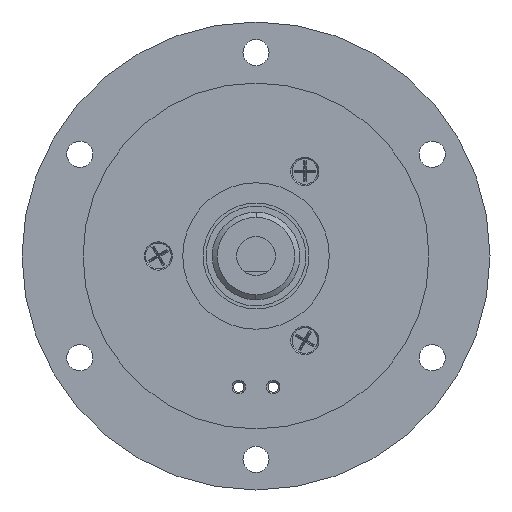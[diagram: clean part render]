
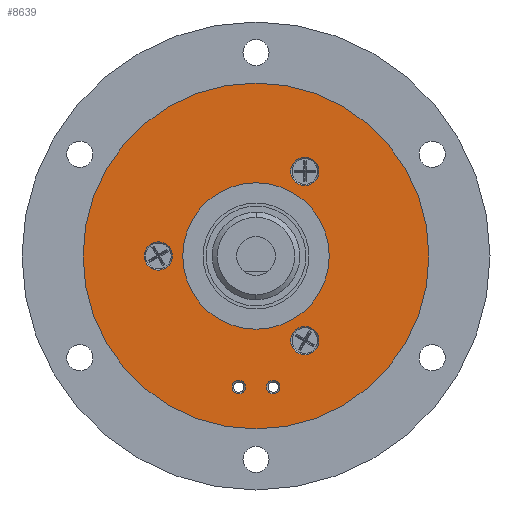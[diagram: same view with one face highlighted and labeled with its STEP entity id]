
A CAD part, left-side view. The second image highlights one B-rep face of the part: STEP entity #8639.
In plain terms, the highlighted planar face has unit normal (-1, 0, 0).
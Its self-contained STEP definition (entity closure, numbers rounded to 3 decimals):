
#18 = CARTESIAN_POINT ( 'NONE',  ( -3.572, 11.688, 17.78 ) ) ;
#200 = DIRECTION ( 'NONE',  ( 0., 0.5, 0.866 ) ) ;
#406 = CIRCLE ( 'NONE', #5492, 42.5 ) ;
#615 = CIRCLE ( 'NONE', #10276, 3.47 ) ;
#723 = ORIENTED_EDGE ( 'NONE', *, *, #1535, .F. ) ;
#833 = CARTESIAN_POINT ( 'NONE',  ( -3.572, 47.688, -3.005 ) ) ;
#926 = FACE_BOUND ( 'NONE', #2237, .T. ) ;
#1167 = VERTEX_POINT ( 'NONE', #6476 ) ;
#1206 = CIRCLE ( 'NONE', #9197, 3.47 ) ;
#1235 = CARTESIAN_POINT ( 'NONE',  ( -3.572, 4.173, -36.806 ) ) ;
#1272 = EDGE_LOOP ( 'NONE', ( #14565, #5765 ) ) ;
#1300 = VERTEX_POINT ( 'NONE', #13605 ) ;
#1302 = DIRECTION ( 'NONE',  ( 0., 0.5, 0.866 ) ) ;
#1342 = ORIENTED_EDGE ( 'NONE', *, *, #5730, .F. ) ;
#1366 = ORIENTED_EDGE ( 'NONE', *, *, #5822, .T. ) ;
#1535 = EDGE_CURVE ( 'NONE', #4799, #11202, #14807, .T. ) ;
#1538 = CARTESIAN_POINT ( 'NONE',  ( -3.572, 13.423, 20.785 ) ) ;
#1599 = CARTESIAN_POINT ( 'NONE',  ( -3.572, 13.423, -20.785 ) ) ;
#1624 = AXIS2_PLACEMENT_3D ( 'NONE', #14924, #10942, #4559 ) ;
#1668 = VERTEX_POINT ( 'NONE', #833 ) ;
#1907 = EDGE_LOOP ( 'NONE', ( #3865, #12963 ) ) ;
#2050 = DIRECTION ( 'NONE',  ( 0., 0.5, 0.866 ) ) ;
#2144 = CARTESIAN_POINT ( 'NONE',  ( -3.572, 29.665, -32.222 ) ) ;
#2221 = PLANE ( 'NONE',  #8917 ) ;
#2237 = EDGE_LOOP ( 'NONE', ( #1366, #5866 ) ) ;
#2341 = CARTESIAN_POINT ( 'NONE',  ( -3.572, 28.84, -33.651 ) ) ;
#2433 = VERTEX_POINT ( 'NONE', #3199 ) ;
#2733 = DIRECTION ( 'NONE',  ( 0., 0.5, 0.866 ) ) ;
#2858 = EDGE_CURVE ( 'NONE', #4467, #1167, #1206, .T. ) ;
#3066 = DIRECTION ( 'NONE',  ( 0., -0.5, -0.866 ) ) ;
#3199 = CARTESIAN_POINT ( 'NONE',  ( -3.572, 20.356, -33.651 ) ) ;
#3450 = AXIS2_PLACEMENT_3D ( 'NONE', #6378, #4121, #13207 ) ;
#3712 = CARTESIAN_POINT ( 'NONE',  ( -3.572, 15.158, -17.78 ) ) ;
#3774 = DIRECTION ( 'NONE',  ( -1., 0., 0. ) ) ;
#3778 = AXIS2_PLACEMENT_3D ( 'NONE', #10008, #4575, #2050 ) ;
#3865 = ORIENTED_EDGE ( 'NONE', *, *, #4475, .F. ) ;
#3867 = EDGE_LOOP ( 'NONE', ( #11603, #4118 ) ) ;
#4099 = CARTESIAN_POINT ( 'NONE',  ( -3.572, 22.006, -30.793 ) ) ;
#4118 = ORIENTED_EDGE ( 'NONE', *, *, #4218, .F. ) ;
#4121 = DIRECTION ( 'NONE',  ( -1., 0., 0. ) ) ;
#4148 = DIRECTION ( 'NONE',  ( 0., 0.5, 0.866 ) ) ;
#4218 = EDGE_CURVE ( 'NONE', #2433, #13125, #8096, .T. ) ;
#4467 = VERTEX_POINT ( 'NONE', #18 ) ;
#4475 = EDGE_CURVE ( 'NONE', #9540, #1668, #615, .T. ) ;
#4534 = AXIS2_PLACEMENT_3D ( 'NONE', #9448, #14283, #8581 ) ;
#4559 = DIRECTION ( 'NONE',  ( 0., -0.5, -0.866 ) ) ;
#4575 = DIRECTION ( 'NONE',  ( -1., 0., 0. ) ) ;
#4579 = DIRECTION ( 'NONE',  ( 0., 0.5, 0.866 ) ) ;
#4799 = VERTEX_POINT ( 'NONE', #2341 ) ;
#4943 = CIRCLE ( 'NONE', #13395, 1.65 ) ;
#5121 = DIRECTION ( 'NONE',  ( 0., 0.5, 0.866 ) ) ;
#5167 = DIRECTION ( 'NONE',  ( -1., 0., 0. ) ) ;
#5197 = CIRCLE ( 'NONE', #11965, 1.65 ) ;
#5396 = VERTEX_POINT ( 'NONE', #3712 ) ;
#5429 = CARTESIAN_POINT ( 'NONE',  ( -3.572, 13.423, -20.785 ) ) ;
#5492 = AXIS2_PLACEMENT_3D ( 'NONE', #12386, #8905, #3066 ) ;
#5536 = EDGE_CURVE ( 'NONE', #8220, #11329, #406, .T. ) ;
#5560 = FACE_OUTER_BOUND ( 'NONE', #11659, .T. ) ;
#5730 = EDGE_CURVE ( 'NONE', #11329, #8220, #12246, .T. ) ;
#5765 = ORIENTED_EDGE ( 'NONE', *, *, #10619, .F. ) ;
#5822 = EDGE_CURVE ( 'NONE', #9986, #1300, #6468, .T. ) ;
#5866 = ORIENTED_EDGE ( 'NONE', *, *, #8366, .T. ) ;
#6376 = ORIENTED_EDGE ( 'NONE', *, *, #5536, .F. ) ;
#6378 = CARTESIAN_POINT ( 'NONE',  ( -3.572, 29.665, -32.222 ) ) ;
#6403 = CIRCLE ( 'NONE', #8335, 3.47 ) ;
#6468 = CIRCLE ( 'NONE', #1624, 18. ) ;
#6476 = CARTESIAN_POINT ( 'NONE',  ( -3.572, 15.158, 23.79 ) ) ;
#6489 = DIRECTION ( 'NONE',  ( -1., 0., 0. ) ) ;
#6491 = AXIS2_PLACEMENT_3D ( 'NONE', #13544, #7755, #8987 ) ;
#6852 = CARTESIAN_POINT ( 'NONE',  ( -3.572, 16.423, -15.588 ) ) ;
#6869 = AXIS2_PLACEMENT_3D ( 'NONE', #14210, #12918, #5121 ) ;
#6939 = CARTESIAN_POINT ( 'NONE',  ( -3.572, 51.158, 3.005 ) ) ;
#7082 = DIRECTION ( 'NONE',  ( 0., 0.5, 0.866 ) ) ;
#7176 = CIRCLE ( 'NONE', #11056, 3.47 ) ;
#7371 = EDGE_CURVE ( 'NONE', #1167, #4467, #7176, .T. ) ;
#7628 = VERTEX_POINT ( 'NONE', #7663 ) ;
#7663 = CARTESIAN_POINT ( 'NONE',  ( -3.572, 11.688, -23.79 ) ) ;
#7755 = DIRECTION ( 'NONE',  ( 1., 0., 0. ) ) ;
#8096 = CIRCLE ( 'NONE', #3778, 1.65 ) ;
#8109 = EDGE_LOOP ( 'NONE', ( #11429, #11264 ) ) ;
#8220 = VERTEX_POINT ( 'NONE', #14892 ) ;
#8335 = AXIS2_PLACEMENT_3D ( 'NONE', #5429, #6489, #4148 ) ;
#8366 = EDGE_CURVE ( 'NONE', #1300, #9986, #9418, .T. ) ;
#8581 = DIRECTION ( 'NONE',  ( 0., -0.5, -0.866 ) ) ;
#8639 = ADVANCED_FACE ( 'NONE', ( #11387, #8891, #11461, #12608, #12677, #5560, #926 ), #2221, .F. ) ;
#8891 = FACE_BOUND ( 'NONE', #3867, .T. ) ;
#8905 = DIRECTION ( 'NONE',  ( 1., 0., 0. ) ) ;
#8917 = AXIS2_PLACEMENT_3D ( 'NONE', #10243, #12531, #10179 ) ;
#8987 = DIRECTION ( 'NONE',  ( 0., -0.5, -0.866 ) ) ;
#9197 = AXIS2_PLACEMENT_3D ( 'NONE', #1538, #9728, #14350 ) ;
#9418 = CIRCLE ( 'NONE', #6491, 18. ) ;
#9448 = CARTESIAN_POINT ( 'NONE',  ( -3.572, 25.423, 0. ) ) ;
#9540 = VERTEX_POINT ( 'NONE', #6939 ) ;
#9585 = CARTESIAN_POINT ( 'NONE',  ( -3.572, 13.423, 20.785 ) ) ;
#9689 = EDGE_CURVE ( 'NONE', #13125, #2433, #4943, .T. ) ;
#9728 = DIRECTION ( 'NONE',  ( -1., 0., 0. ) ) ;
#9986 = VERTEX_POINT ( 'NONE', #6852 ) ;
#10008 = CARTESIAN_POINT ( 'NONE',  ( -3.572, 21.181, -32.222 ) ) ;
#10052 = EDGE_CURVE ( 'NONE', #1668, #9540, #13651, .T. ) ;
#10179 = DIRECTION ( 'NONE',  ( 0., -0.5, -0.866 ) ) ;
#10243 = CARTESIAN_POINT ( 'NONE',  ( -3.572, 62.229, -21.25 ) ) ;
#10271 = AXIS2_PLACEMENT_3D ( 'NONE', #1599, #11684, #1302 ) ;
#10276 = AXIS2_PLACEMENT_3D ( 'NONE', #11068, #5167, #2733 ) ;
#10431 = EDGE_CURVE ( 'NONE', #11202, #4799, #5197, .T. ) ;
#10619 = EDGE_CURVE ( 'NONE', #7628, #5396, #11975, .T. ) ;
#10881 = CARTESIAN_POINT ( 'NONE',  ( -3.572, 30.49, -30.793 ) ) ;
#10908 = EDGE_CURVE ( 'NONE', #5396, #7628, #6403, .T. ) ;
#10942 = DIRECTION ( 'NONE',  ( 1., 0., 0. ) ) ;
#11056 = AXIS2_PLACEMENT_3D ( 'NONE', #9585, #13996, #200 ) ;
#11068 = CARTESIAN_POINT ( 'NONE',  ( -3.572, 49.423, 0. ) ) ;
#11202 = VERTEX_POINT ( 'NONE', #10881 ) ;
#11264 = ORIENTED_EDGE ( 'NONE', *, *, #2858, .F. ) ;
#11329 = VERTEX_POINT ( 'NONE', #1235 ) ;
#11387 = FACE_BOUND ( 'NONE', #11443, .T. ) ;
#11429 = ORIENTED_EDGE ( 'NONE', *, *, #7371, .F. ) ;
#11443 = EDGE_LOOP ( 'NONE', ( #12024, #723 ) ) ;
#11461 = FACE_BOUND ( 'NONE', #1907, .T. ) ;
#11603 = ORIENTED_EDGE ( 'NONE', *, *, #9689, .F. ) ;
#11659 = EDGE_LOOP ( 'NONE', ( #1342, #6376 ) ) ;
#11684 = DIRECTION ( 'NONE',  ( -1., 0., 0. ) ) ;
#11786 = CARTESIAN_POINT ( 'NONE',  ( -3.572, 21.181, -32.222 ) ) ;
#11965 = AXIS2_PLACEMENT_3D ( 'NONE', #2144, #13664, #4579 ) ;
#11975 = CIRCLE ( 'NONE', #10271, 3.47 ) ;
#12024 = ORIENTED_EDGE ( 'NONE', *, *, #10431, .F. ) ;
#12246 = CIRCLE ( 'NONE', #4534, 42.5 ) ;
#12386 = CARTESIAN_POINT ( 'NONE',  ( -3.572, 25.423, 0. ) ) ;
#12531 = DIRECTION ( 'NONE',  ( 1., 0., 0. ) ) ;
#12608 = FACE_BOUND ( 'NONE', #8109, .T. ) ;
#12677 = FACE_BOUND ( 'NONE', #1272, .T. ) ;
#12918 = DIRECTION ( 'NONE',  ( -1., 0., 0. ) ) ;
#12963 = ORIENTED_EDGE ( 'NONE', *, *, #10052, .F. ) ;
#13125 = VERTEX_POINT ( 'NONE', #4099 ) ;
#13207 = DIRECTION ( 'NONE',  ( 0., 0.5, 0.866 ) ) ;
#13395 = AXIS2_PLACEMENT_3D ( 'NONE', #11786, #3774, #7082 ) ;
#13544 = CARTESIAN_POINT ( 'NONE',  ( -3.572, 25.423, 0. ) ) ;
#13605 = CARTESIAN_POINT ( 'NONE',  ( -3.572, 34.423, 15.588 ) ) ;
#13651 = CIRCLE ( 'NONE', #6869, 3.47 ) ;
#13664 = DIRECTION ( 'NONE',  ( -1., 0., 0. ) ) ;
#13996 = DIRECTION ( 'NONE',  ( -1., 0., 0. ) ) ;
#14210 = CARTESIAN_POINT ( 'NONE',  ( -3.572, 49.423, 0. ) ) ;
#14283 = DIRECTION ( 'NONE',  ( 1., 0., 0. ) ) ;
#14350 = DIRECTION ( 'NONE',  ( 0., 0.5, 0.866 ) ) ;
#14565 = ORIENTED_EDGE ( 'NONE', *, *, #10908, .F. ) ;
#14807 = CIRCLE ( 'NONE', #3450, 1.65 ) ;
#14892 = CARTESIAN_POINT ( 'NONE',  ( -3.572, 46.673, 36.806 ) ) ;
#14924 = CARTESIAN_POINT ( 'NONE',  ( -3.572, 25.423, 0. ) ) ;
